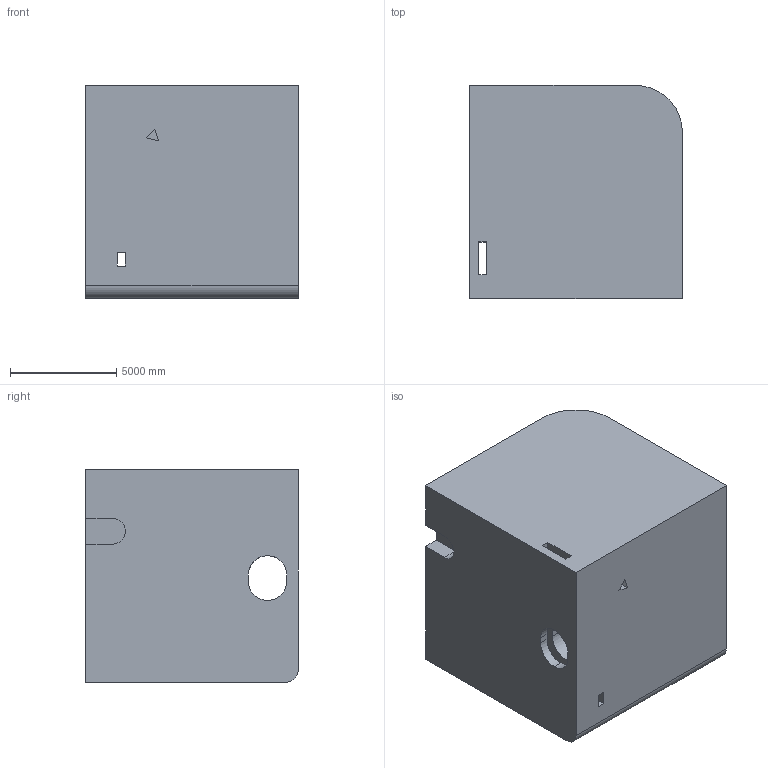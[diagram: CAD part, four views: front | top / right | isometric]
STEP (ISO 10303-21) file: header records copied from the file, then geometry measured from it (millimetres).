
FILE_DESCRIPTION (( 'STEP AP203' ), '1' );
FILE_NAME ('74.STEP', '2022-09-02T14:01:50', ( 'user' ), ( '' ), 'SwSTEP 2.0', 'SolidWorks 2021', '' );
FILE_SCHEMA (( 'CONFIG_CONTROL_DESIGN' ));
Length unit declared in the file: centimetre
Products named in the file (1): 74
Bounding box: 10000 x 10000 x 10000 mm (x, y, z)
Volume: 944941283386.6 mm3; surface area: 717205173.2 mm2
Topology: 1 solids, 1 shells, 37 faces, 111 edges, 74 vertices
Faces by surface type: plane 30, cylinder 7
Entity records: 1336 total; most frequent: CARTESIAN_POINT 223, ORIENTED_EDGE 222, DIRECTION 205, EDGE_CURVE 111, LINE 93, VECTOR 93, VERTEX_POINT 74, AXIS2_PLACEMENT_3D 56
